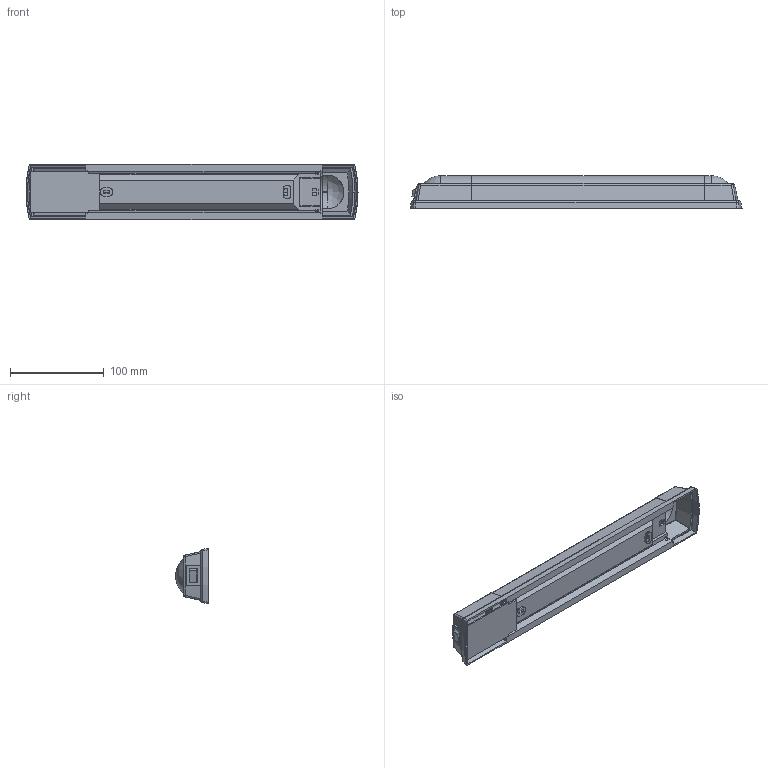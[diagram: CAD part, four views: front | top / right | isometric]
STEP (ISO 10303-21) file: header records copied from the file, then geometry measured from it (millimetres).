
FILE_DESCRIPTION(('CATIA V5 STEP Exchange','CAx-IF Rec.Pracs.--- Model Styling and Organization---1.5--- 2016-08-15','CAx-IF Rec.Pracs.---Supplemental Geometry---1.0---2011-11-01','CAx-IF Rec.Pracs.--- Composite Materials ---1.1---2010-07-15'),'2;1');
FILE_NAME('E:\tmp\ddx\2011210\HELLA_3D_data_LED_interior_lamp_007-373.stp','2022-01-18T07:04:15+00:00',('none'),('none'),'CATIA Version 5-6 Release 2020 SP3 HF9','CATIA V5 STEP AP214 Edition 3 v2','none');
FILE_SCHEMA(('AUTOMOTIVE_DESIGN { 1 0 10303 214 3 1 1 1 }'));
Length unit declared in the file: millimetre
Products named in the file (1): 10001163454_D10_001
Bounding box: 354.62 x 35.11 x 59 mm (x, y, z)
Surface area: 131335.3 mm2 (no closed solid volume)
Topology: 0 solids, 356 shells, 359 faces, 3029 edges, 3024 vertices
Faces by surface type: plane 216, cylinder 85, bspline 32, revolution 26
Entity records: 28250 total; most frequent: CARTESIAN_POINT 11997, ORIENTED_EDGE 3030, EDGE_CURVE 3027, VERTEX_POINT 3024, B_SPLINE_CURVE_WITH_KNOTS 2636, DIRECTION 965, AXIS2_PLACEMENT_3D 468, EDGE_LOOP 386
